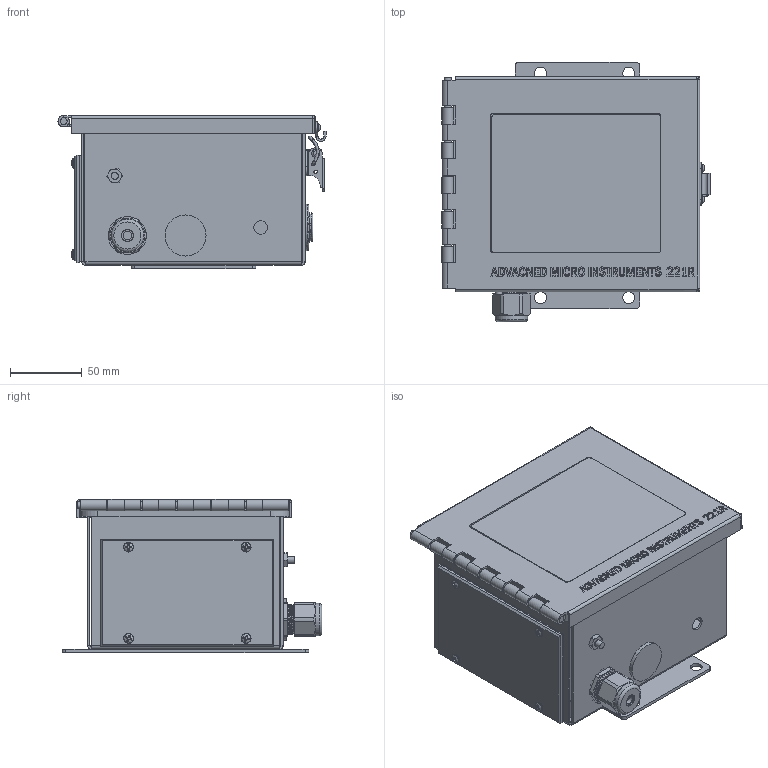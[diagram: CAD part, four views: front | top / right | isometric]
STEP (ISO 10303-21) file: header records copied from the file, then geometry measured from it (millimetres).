
FILE_DESCRIPTION (( 'STEP AP214' ), '1' );
FILE_NAME ('4DOD0600A.STEP', '2021-07-29T16:54:11', ( '' ), ( '' ), 'SwSTEP 2.0', 'SolidWorks 2020', '' );
FILE_SCHEMA (( 'AUTOMOTIVE_DESIGN' ));
Length unit declared in the file: inch
Products named in the file (1): 4DOD0600A
Bounding box: 186.6 x 180.77 x 106.6 mm (x, y, z)
Surface area: 503145.8 mm2 (no closed solid volume)
Topology: 0 solids, 63 shells, 2382 faces, 6020 edges, 3865 vertices
Faces by surface type: plane 1335, cylinder 515, bspline 346, cone 143, torus 32, sphere 11
Full cylindrical faces by diameter (mm): 1.016 x10, 2 x1, 2.172 x1, 2.3 x2, 2.4 x4, 2.474 x4, 2.54 x9, 3.2 x1, 3.302 x4, 3.4 x2, 3.404 x4, 3.454 x4, 3.48 x3, 3.505 x4, 3.556 x2, 3.81 x6, 4.2 x2, 4.216 x2, 4.25 x4, 4.75 x1, 4.764 x1, 4.775 x5, 4.801 x1, 5.105 x4, 5.385 x4, 5.41 x18, 6.096 x3, 6.164 x1, 6.304 x2, 6.35 x2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
Entity records: 144948 total; most frequent: CARTESIAN_POINT 60382, ORIENTED_EDGE 11369, DIRECTION 9544, EDGE_CURVE 5693, VERTEX_POINT 3795, LINE 3410, VECTOR 3410, AXIS2_PLACEMENT_3D 3067
